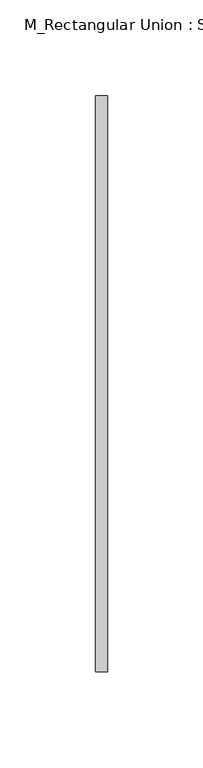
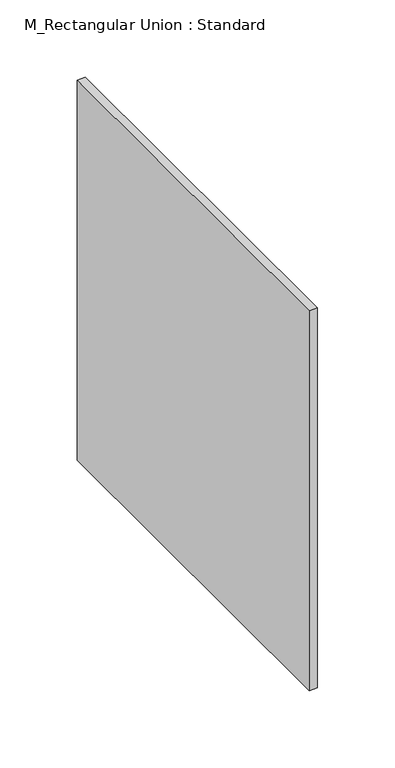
"""IFC4 building model written with IfcOpenShell, lengths in millimetres: duct fitting geometry, M_Rectangular Union : Standard."""

from ifc_helpers import new_model, si_unit, frame, origin, place, context, project, spatial, polyline, outline, extrude, source, transform, mapped, element, save


def m_rectangular_union_standard_95ef7098(model_context):
    return source(origin(), model_context, "Body", "SweptSolid", [
        extrude(outline(polyline([(3.0, 150.0), (3.0, -150.0), (-3.0, -150.0), (-3.0, 150.0), (3.0, 150.0)])), frame((0.0, 0.0, -150.0), z_axis=(0.0, 0.0, 1.0), x_axis=(1.0, 0.0, 0.0)), (0.0, 0.0, 1.0), 300.0),
    ])


if __name__ == "__main__":
    model = new_model("IFC4")
    model_context = context("Model", 3, world=origin())
    ifc_project = project(units=[si_unit("LENGTHUNIT", "METRE", prefix="MILLI")], contexts=[model_context])
    site = spatial("IfcSite", under=ifc_project)
    building = spatial("IfcBuilding", under=site)
    placement = place(None, origin())
    m_rectangular_union_standard_shape = m_rectangular_union_standard_95ef7098(model_context)
    element("IfcDuctFitting", 1, ObjectType="M_Rectangular Union : Standard", at=placement, inside=building, context=model_context, shape_type="MappedRepresentation", body=[
        mapped(m_rectangular_union_standard_shape, transform((0.0, 0.0, 0.0), x_axis=(1.0, 0.0, 0.0), y_axis=(0.0, 1.0, 0.0), z_axis=(0.0, 0.0, 1.0))),
    ])
    save(model, "model.ifc")
